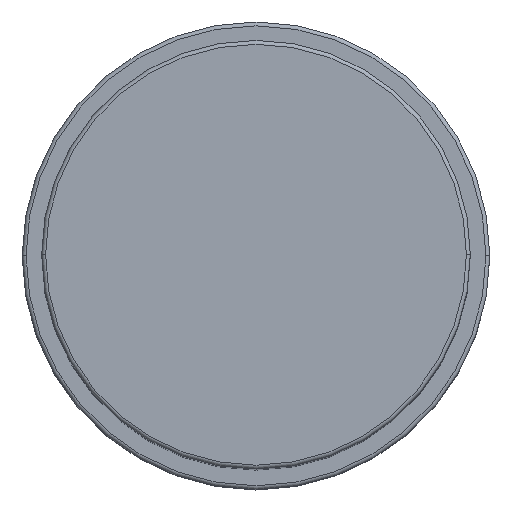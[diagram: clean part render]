
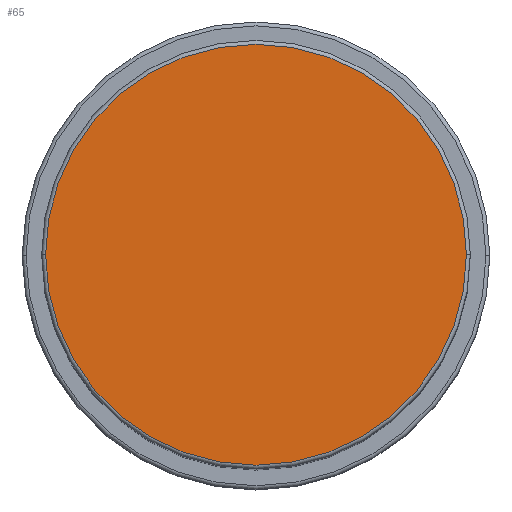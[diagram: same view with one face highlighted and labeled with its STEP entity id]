
A CAD part, top view. The second image highlights one B-rep face of the part: STEP entity #65.
In plain terms, the highlighted planar face has unit normal (0, 0, 1).
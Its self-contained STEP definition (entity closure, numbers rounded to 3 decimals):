
#5 = DIRECTION ( 'NONE',  ( 1., 0., 0. ) ) ;
#19 = CARTESIAN_POINT ( 'NONE',  ( 0., 0., 106. ) ) ;
#65 = ADVANCED_FACE ( 'NONE', ( #1475 ), #383, .T. ) ;
#89 = ORIENTED_EDGE ( 'NONE', *, *, #167, .T. ) ;
#156 = DIRECTION ( 'NONE',  ( 0., 0., 1. ) ) ;
#167 = EDGE_CURVE ( 'NONE', #1039, #904, #354, .T. ) ;
#354 = CIRCLE ( 'NONE', #951, 27. ) ;
#372 = ORIENTED_EDGE ( 'NONE', *, *, #1655, .T. ) ;
#383 = PLANE ( 'NONE',  #1436 ) ;
#443 = CARTESIAN_POINT ( 'NONE',  ( 27., 0., 106. ) ) ;
#459 = CIRCLE ( 'NONE', #1457, 27. ) ;
#698 = EDGE_LOOP ( 'NONE', ( #89, #372 ) ) ;
#731 = DIRECTION ( 'NONE',  ( 1., 0., 0. ) ) ;
#831 = DIRECTION ( 'NONE',  ( 1., 0., 0. ) ) ;
#851 = CARTESIAN_POINT ( 'NONE',  ( 0., 0., 106. ) ) ;
#904 = VERTEX_POINT ( 'NONE', #1478 ) ;
#951 = AXIS2_PLACEMENT_3D ( 'NONE', #851, #996, #731 ) ;
#996 = DIRECTION ( 'NONE',  ( 0., 0., 1. ) ) ;
#1039 = VERTEX_POINT ( 'NONE', #443 ) ;
#1086 = CARTESIAN_POINT ( 'NONE',  ( 0., 0., 106. ) ) ;
#1436 = AXIS2_PLACEMENT_3D ( 'NONE', #19, #156, #5 ) ;
#1457 = AXIS2_PLACEMENT_3D ( 'NONE', #1086, #1605, #831 ) ;
#1475 = FACE_OUTER_BOUND ( 'NONE', #698, .T. ) ;
#1478 = CARTESIAN_POINT ( 'NONE',  ( -27., 0., 106. ) ) ;
#1605 = DIRECTION ( 'NONE',  ( 0., 0., 1. ) ) ;
#1655 = EDGE_CURVE ( 'NONE', #904, #1039, #459, .T. ) ;
